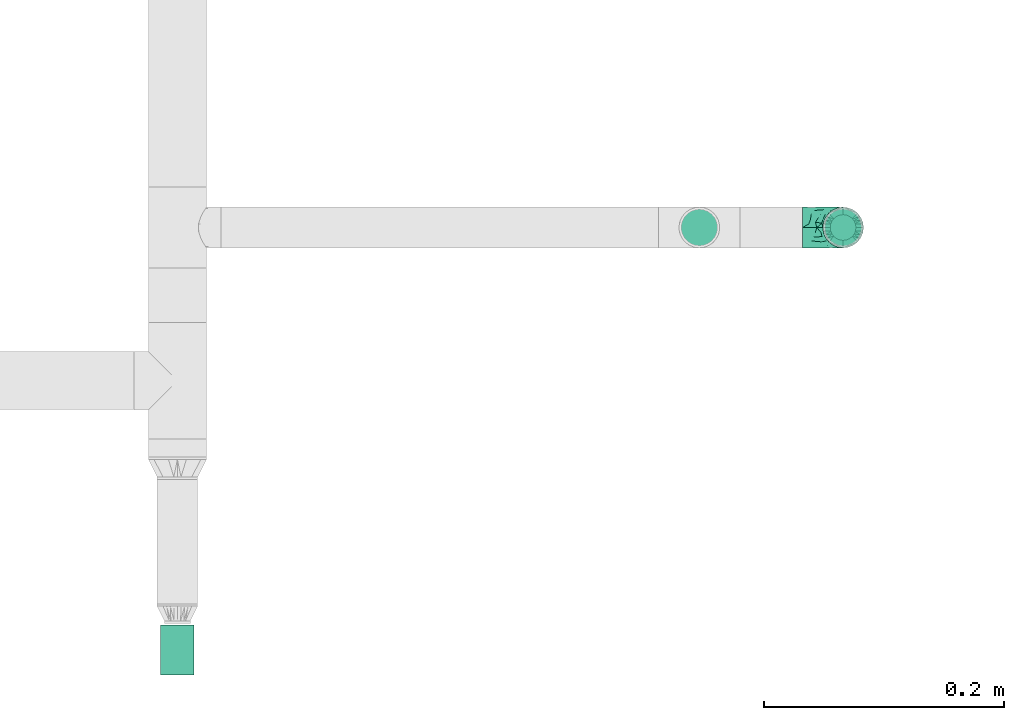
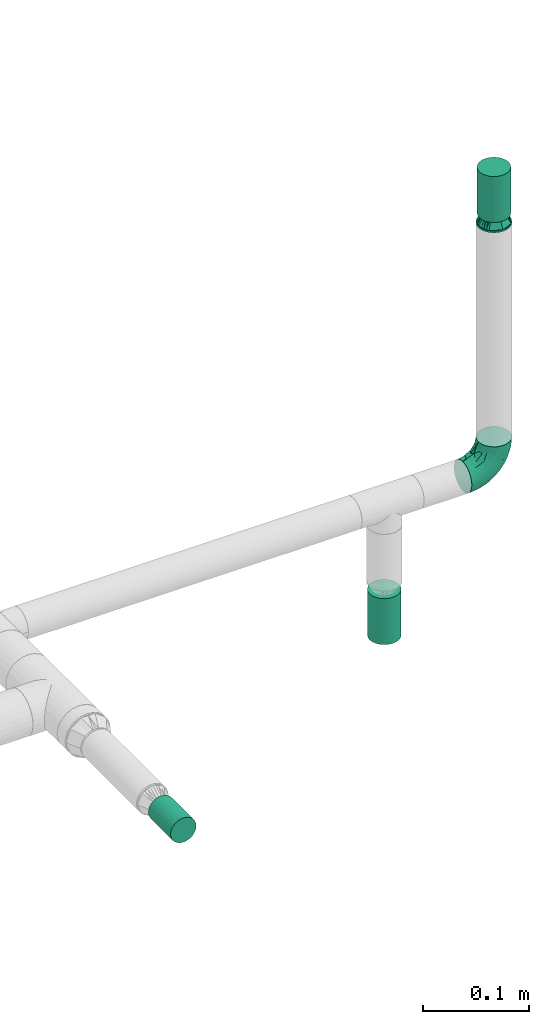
# One storey, part 38 of 51: 3 flow terminals, 2 flow fittings.
"""IFC2X3 building model written with IfcOpenShell, lengths in millimetres."""

from ifc_helpers import new_model, entity, si_unit, converted_unit, derived_unit, direction, frame, origin_with_axes, place, context, subcontext, project, spatial, open_shell, surface_model, source, transform, mapped, type_object, element, save


model = new_model("IFC2X3")

# Units and contexts
model_context = context("Model", 3, precision=0.01, world=frame((0.0, 4.29681676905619e-09, 0.0)), true_north=direction((4.01073788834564e-13, 1.0)))
plan_context = context("Plan", 3, precision=0.01, world=frame((0.0, 4.29681676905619e-09, 0.0)), true_north=direction((4.01073788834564e-13, 1.0)))
body_context = subcontext(model_context, "Body", "Model", "MODEL_VIEW")
ifc_project = project(units=[converted_unit("PLANEANGLEUNIT", "DEGREE", entity("IfcPositiveLengthMeasure", 0.0174532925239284), si_unit("PLANEANGLEUNIT", "RADIAN"), dimensions=[0, 0, 0, 0, 0, 0, 0]), si_unit("AREAUNIT", "SQUARE_METRE"), si_unit("LENGTHUNIT", "METRE", prefix="MILLI"), si_unit("MASSUNIT", "GRAM", prefix="KILO"), si_unit("POWERUNIT", "WATT"), si_unit("PRESSUREUNIT", "PASCAL"), si_unit("FORCEUNIT", "NEWTON", prefix="KILO"), si_unit("ELECTRICVOLTAGEUNIT", "VOLT"), si_unit("ELECTRICCURRENTUNIT", "AMPERE"), si_unit("THERMODYNAMICTEMPERATUREUNIT", "DEGREE_CELSIUS"), si_unit("TIMEUNIT", "SECOND"), si_unit("VOLUMEUNIT", "CUBIC_METRE"), derived_unit("LINEARVELOCITYUNIT", [(si_unit("LENGTHUNIT", "METRE"), 1), (si_unit("TIMEUNIT", "SECOND"), -1)]), derived_unit("VOLUMETRICFLOWRATEUNIT", [(si_unit("VOLUMEUNIT", "CUBIC_METRE"), 1), (si_unit("TIMEUNIT", "SECOND"), -1)]), derived_unit("THERMALTRANSMITTANCEUNIT", [(si_unit("POWERUNIT", "WATT"), 1), (si_unit("THERMODYNAMICTEMPERATUREUNIT", "KELVIN"), -1), (si_unit("AREAUNIT", "SQUARE_METRE"), -1)]), derived_unit("SOUNDPRESSUREUNIT", [(si_unit("PRESSUREUNIT", "PASCAL"), 1)])], contexts=[model_context, plan_context])

# Site, building, storey
site_placement = place(None, frame((0.0, -4.29681676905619e-09, 0.0), z_axis=(0.0, 0.0, 1.0), x_axis=(1.0, 0.0, 0.0)))
site = spatial("IfcSite", under=ifc_project, at=site_placement, Name="ENGM", CompositionType="ELEMENT")
building_placement = place(site_placement, frame((0.0, 4.29681676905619e-09, 0.0), z_axis=(0.0, 0.0, 1.0), x_axis=(1.0, 0.0, 0.0)))
building = spatial("IfcBuilding", under=site, at=building_placement, Name="TH", CompositionType="ELEMENT")
storey_placement = place(building_placement, frame((0.0, 0.0, 210200.0), z_axis=(0.0, 0.0, 1.0), x_axis=(1.0, 0.0, 0.0)))
storey = spatial("IfcBuildingStorey", under=building, at=storey_placement, Name="Nivå F - 0,7 m", CompositionType="ELEMENT", Elevation=210200.0)

# Flow fittings
pipe_fitting_type_1 = type_object("IfcPipeFittingType", Name="magi_pipe_fe_elbow_short_001", PredefinedType="BEND")
shared_shape_1 = source(origin_with_axes(), body_context, "Body", "SurfaceModel", [
    surface_model("IfcShellBasedSurfaceModel", [(-33.8, 8.45, -14.63583), (-33.8, 4.37404, -16.32415), (-33.8, 11.9501, -11.9501), (-33.8, -11.9501, -11.9501), (-33.8, -14.63583, -8.45), (-33.8, -8.45, -14.63583), (-33.8, 0.0, -16.9), (-33.8, -4.37404, -16.32415), (-33.8, -4.37404, 16.32415), (-33.8, 0.0, 16.9), (-33.8, -8.45, 14.63583), (-33.8, 16.32415, -4.37404), (-33.8, 14.63583, -8.45), (-33.8, -16.32415, -4.37404), (-33.8, -16.9, 0.0), (-33.8, -16.32415, 4.37404), (-33.8, 11.9501, 11.9501), (-33.8, 14.63583, 8.45), (-33.8, 16.32415, 4.37404), (-33.8, 4.37404, 16.32415), (-33.8, 8.45, 14.63583), (-33.8, -14.63583, 8.45), (-33.8, -11.9501, 11.9501), (-33.8, 16.9, 0.0), (-11.9501, 33.8, -11.9501), (0.0, 33.8, -16.9), (-4.37404, 33.8, -16.32415), (-8.45, 33.8, -14.63583), (-14.63583, 33.8, -8.45), (-16.32415, 33.8, -4.37404), (14.63583, 33.8, -8.45), (8.45, 33.8, 14.63583), (16.32415, 33.8, -4.37404), (8.45, 33.8, -14.63583), (11.9501, 33.8, -11.9501), (4.37404, 33.8, -16.32415), (16.32415, 33.8, 4.37404), (16.9, 33.8, 0.0), (-11.9501, 33.8, 11.9501), (-16.32415, 33.8, 4.37404), (-14.63583, 33.8, 8.45), (-8.45, 33.8, 14.63583), (-4.37404, 33.8, 16.32415), (11.9501, 33.8, 11.9501), (14.63583, 33.8, 8.45), (0.0, 33.8, 16.9), (4.37404, 33.8, 16.32415), (-16.9, 33.8, 0.0), (-24.79389, -13.12945, 9.48721), (-22.19287, -9.75018, 12.59315), (-24.09897, -14.97035, 0.0), (-14.93934, -10.76256, 8.5297), (-22.46095, -14.75051, 5.27077), (14.75051, 22.46094, 5.27077), (11.9251, 13.23888, 4.33236), (13.04069, 14.39795, 0.0), (7.71387, 13.68847, 11.55891), (9.75018, 22.19287, 12.59315), (4.10169, 13.0571, 14.04018), (-24.84007, -6.39063, 15.2048), (-25.81779, -2.23879, 16.61097), (-23.66549, 2.59054, 16.87119), (-26.50418, 14.06512, 11.08152), (-24.21253, 17.66365, 7.72657), (-29.58514, 15.86957, 7.00283), (-6.17382, -7.5455, 0.0), (-13.23888, -11.9251, 4.33236), (-14.39795, -13.04069, 0.0), (-17.81434, 18.87373, 11.97104), (-6.30846, 29.15138, 15.82987), (-2.31622, 25.28002, 16.85849), (-29.23923, 10.23435, 13.77053), (-1.45439, -2.85688, 7.61475), (-0.28326, 0.34872, 10.09509), (-5.74484, -4.04709, 10.4122), (-4.41137, 11.31918, 16.59407), (-8.39727, 3.10034, 15.7812), (-1.72649, 9.1306, 15.53089), (-17.39909, 24.75344, 7.64977), (-26.19233, 20.0512, 0.0), (-28.14518, 17.29657, 4.25857), (-26.05147, 6.6281, 15.96447), (-5.87354, 16.61944, 16.86968), (-12.51807, 12.51807, 16.48937), (-10.06312, 7.38516, 16.81295), (-3.01882, 3.01882, 13.81718), (-13.0571, -4.10169, 14.04018), (-16.82553, -0.15166, 16.38038), (10.76256, 14.93934, 8.5297), (13.12945, 24.79389, 9.48721), (6.39063, 24.84007, 15.2048), (2.23879, 25.81779, 16.61097), (-13.68847, -7.71387, 11.55891), (14.97035, 24.09897, 0.0), (-7.30894, 22.89991, 16.09489), (-10.67958, 26.17414, 14.008), (-12.78295, 18.26924, 15.06066), (-13.88562, 22.45231, 12.93244), (-18.04944, 15.16501, 14.04434), (-23.11658, 20.08178, 4.02986), (-21.84989, 21.84989, 0.0), (-18.55817, 25.48277, 3.93065), (-13.95142, 26.94732, 11.03289), (-18.57098, 7.23906, 16.59756), (-16.58335, 4.14122, 16.89279), (-17.96666, 11.46709, 15.63151), (-9.84453, 17.54304, 16.18938), (0.15166, 16.82553, 16.38038), (-23.27207, 11.47201, 14.23154), (3.84842, 5.86994, 10.70473), (-8.0212, -7.54413, 7.93275), (1.00345, -2.19508, 4.57414), (5.13203, 3.01004, 5.90201), (5.24161, 1.7543, 2.53265), (8.70457, 7.04947, 3.99182), (-20.0512, 26.19233, 0.0), (8.4852, 8.76699, 7.09296), (-4.55488, -6.72064, 4.90681), (2.05031, -2.05031, 0.0), (7.5455, 6.17382, 0.0), (-26.75399, 2.1369, -16.845), (-14.61995, 24.73803, -11.27736), (-28.45274, -13.45335, -9.81895), (-26.00469, 6.63555, -15.96645), (-23.06726, 20.04573, -4.26202), (-13.80647, -4.26506, -14.17873), (-14.67501, -0.21081, -16.07388), (-6.7902, -0.2828, -13.8478), (-24.53586, 11.08096, -14.13417), (-26.72048, 14.00837, -11.05776), (10.0967, 24.44989, -12.75976), (5.83237, 21.40218, -15.03047), (6.66249, 28.54238, -15.38093), (-20.38182, 15.48705, -12.74596), (12.53268, 21.23441, -9.15363), (12.54494, 15.67504, -5.54878), (9.7522, 12.89279, -8.66343), (-15.65186, 19.64213, -13.01327), (-12.03528, 20.66498, -14.67665), (-15.61907, 15.61906, -14.83879), (-25.56551, -15.26206, 0.0), (-24.65452, -15.12934, -5.50955), (13.45335, 28.45274, -9.81895), (15.12934, 24.65452, -5.50955), (-7.35442, -8.31014, -5.65563), (-15.67504, -12.54494, -5.54878), (-24.44989, -10.0967, -12.75976), (0.16522, 0.41303, -9.71728), (-5.70658, -5.33066, -8.89288), (-5.13869, -2.37198, -11.53565), (-21.23441, -12.53268, -9.15363), (0.71146, 7.93863, -14.09382), (0.21081, 14.67501, -16.07388), (3.49291, 14.42772, -14.76381), (-24.89911, -2.13088, -16.591), (-28.54238, -6.66249, -15.38093), (-18.44386, -7.71663, -13.26957), (2.13088, 24.89911, -16.591), (-28.64342, 17.44413, -2.89318), (1.70017, -1.28722, -5.09504), (-16.57067, 26.81947, -7.36596), (-17.69055, 27.4263, -3.76405), (-12.89279, -9.7522, -8.66343), (-5.96611, 5.96611, -15.95814), (-20.53709, 20.09345, -8.28985), (-2.1369, 26.75399, -16.845), (-6.89872, 24.58781, -16.02578), (-10.60739, 26.53157, -13.98044), (-21.40218, -5.83237, -15.03047), (2.93192, 5.89627, -11.55917), (6.89393, 12.61842, -11.82233), (5.58056, 5.95325, -8.79455), (-3.99512, 18.61798, -16.89635), (8.31014, 7.35442, -5.65563), (-9.1383, 9.86148, -16.89041), (-9.99983, 16.02119, -16.39699), (-16.68576, 9.78031, -16.34199), (-27.01915, 16.61158, -7.12979), (15.26206, 25.56551, 0.0), (-18.61798, 3.99512, -16.89635), (-19.37495, 27.82495, 0.0), (-12.61842, -6.89393, -11.82233), (-18.84705, 19.14018, -10.96545)], [open_shell([[[0, 1, 2]], [[3, 4, 5]], [[6, 7, 5]], [[8, 9, 10]], [[1, 6, 2]], [[11, 12, 2]], [[4, 2, 6]], [[2, 13, 10]], [[5, 4, 6]], [[2, 4, 13]], [[14, 15, 13]], [[11, 2, 16]], [[11, 17, 18]], [[11, 16, 17]], [[19, 20, 16]], [[16, 2, 10]], [[19, 16, 10]], [[21, 22, 15]], [[22, 13, 15]], [[22, 10, 13]], [[10, 9, 19]], [[11, 18, 23]], [[24, 25, 26]], [[24, 26, 27]], [[24, 28, 29]], [[25, 24, 30]], [[31, 32, 24]], [[33, 30, 34]], [[33, 35, 25]], [[25, 30, 33]], [[32, 30, 24]], [[32, 36, 37]], [[38, 24, 29]], [[39, 40, 29]], [[40, 38, 29]], [[38, 41, 42]], [[38, 31, 24]], [[31, 38, 42]], [[36, 43, 44]], [[36, 32, 43]], [[31, 45, 46]], [[32, 31, 43]], [[42, 45, 31]], [[39, 29, 47]], [[22, 48, 49]], [[15, 14, 50]], [[51, 48, 52]], [[53, 54, 55]], [[48, 22, 21]], [[15, 52, 21]], [[56, 57, 58]], [[49, 10, 22]], [[49, 59, 10]], [[9, 60, 61]], [[62, 63, 64]], [[65, 66, 67]], [[57, 43, 31]], [[62, 68, 63]], [[42, 69, 70]], [[20, 71, 16]], [[8, 60, 9]], [[72, 73, 74]], [[75, 76, 77]], [[16, 62, 17]], [[40, 39, 78]], [[79, 23, 80]], [[64, 18, 17]], [[9, 61, 19]], [[19, 81, 20]], [[82, 83, 84]], [[74, 85, 86]], [[59, 86, 87]], [[88, 89, 57]], [[90, 31, 46]], [[44, 53, 36]], [[46, 45, 91]], [[54, 53, 88]], [[44, 89, 53]], [[92, 86, 49]], [[89, 44, 43]], [[10, 59, 8]], [[53, 55, 93]], [[93, 36, 53]], [[66, 52, 67]], [[94, 82, 70]], [[95, 96, 94]], [[97, 98, 96]], [[79, 99, 100]], [[41, 38, 95]], [[101, 100, 99]], [[68, 78, 63]], [[42, 41, 69]], [[23, 18, 80]], [[95, 94, 69]], [[78, 101, 99]], [[38, 102, 95]], [[70, 45, 42]], [[97, 95, 102]], [[15, 50, 52]], [[90, 57, 31]], [[57, 90, 58]], [[81, 19, 61]], [[103, 104, 84]], [[105, 81, 103]], [[38, 40, 102]], [[106, 96, 83]], [[94, 106, 82]], [[91, 70, 107]], [[71, 62, 16]], [[62, 108, 98]], [[86, 59, 49]], [[67, 52, 50]], [[60, 59, 87]], [[92, 49, 51]], [[86, 85, 76]], [[91, 90, 46]], [[37, 36, 93]], [[107, 77, 58]], [[107, 58, 90]], [[58, 85, 109]], [[110, 74, 92]], [[72, 74, 110]], [[66, 51, 52]], [[72, 111, 112]], [[113, 114, 112]], [[56, 88, 57]], [[52, 48, 21]], [[49, 48, 51]], [[57, 89, 43]], [[53, 89, 88]], [[103, 81, 61]], [[71, 81, 108]], [[18, 64, 80]], [[63, 78, 99]], [[47, 115, 101]], [[101, 115, 100]], [[40, 78, 102]], [[68, 102, 78]], [[97, 96, 95]], [[105, 98, 108]], [[103, 84, 83]], [[107, 70, 82]], [[76, 84, 87]], [[82, 84, 75]], [[70, 91, 45]], [[90, 91, 107]], [[59, 60, 8]], [[61, 60, 87]], [[73, 85, 74]], [[109, 112, 116]], [[103, 61, 104]], [[105, 103, 83]], [[96, 105, 83]], [[81, 105, 108]], [[96, 98, 105]], [[62, 98, 68]], [[61, 87, 104]], [[87, 84, 104]], [[86, 76, 87]], [[77, 76, 85]], [[58, 77, 85]], [[75, 77, 107]], [[82, 75, 107]], [[76, 75, 84]], [[81, 71, 20]], [[62, 71, 108]], [[95, 69, 41]], [[70, 69, 94]], [[62, 64, 17]], [[80, 63, 99]], [[63, 80, 64]], [[80, 99, 79]], [[66, 65, 117]], [[110, 66, 117]], [[112, 114, 116]], [[118, 117, 65]], [[110, 92, 51]], [[112, 111, 113]], [[119, 55, 54]], [[74, 86, 92]], [[58, 109, 56]], [[116, 56, 109]], [[66, 110, 51]], [[72, 110, 117]], [[111, 72, 117]], [[73, 112, 109]], [[117, 118, 111]], [[113, 111, 118]], [[118, 119, 113]], [[114, 119, 54]], [[119, 114, 113]], [[116, 54, 88]], [[54, 116, 114]], [[116, 88, 56]], [[112, 73, 72]], [[85, 73, 109]], [[78, 39, 101]], [[47, 101, 39]], [[102, 68, 97]], [[97, 68, 98]], [[82, 106, 83]], [[94, 96, 106]], [[1, 120, 6]], [[28, 24, 121]], [[3, 122, 4]], [[0, 123, 1]], [[100, 124, 79]], [[125, 126, 127]], [[128, 2, 129]], [[130, 131, 132]], [[128, 129, 133]], [[134, 135, 136]], [[137, 138, 139]], [[128, 0, 2]], [[67, 140, 141]], [[134, 142, 143]], [[141, 13, 4]], [[144, 65, 145]], [[146, 3, 5]], [[147, 148, 149]], [[145, 141, 150]], [[151, 152, 153]], [[154, 7, 6]], [[5, 155, 146]], [[150, 146, 156]], [[155, 5, 7]], [[143, 135, 134]], [[35, 157, 25]], [[23, 79, 158]], [[148, 159, 144]], [[160, 161, 29]], [[145, 162, 144]], [[163, 152, 151]], [[29, 28, 160]], [[121, 164, 160]], [[33, 34, 130]], [[25, 165, 26]], [[26, 165, 166]], [[142, 34, 30]], [[24, 27, 167]], [[124, 161, 164]], [[157, 35, 132]], [[155, 154, 168]], [[123, 0, 128]], [[169, 170, 171]], [[172, 157, 152]], [[26, 166, 27]], [[132, 35, 33]], [[142, 130, 34]], [[168, 154, 126]], [[136, 135, 173]], [[133, 137, 139]], [[2, 12, 129]], [[170, 131, 130]], [[30, 32, 143]], [[172, 174, 175]], [[176, 123, 128]], [[158, 177, 11]], [[135, 55, 119]], [[167, 27, 166]], [[175, 166, 172]], [[137, 167, 138]], [[122, 141, 4]], [[140, 14, 13]], [[32, 37, 178]], [[170, 130, 134]], [[152, 157, 131]], [[165, 157, 172]], [[153, 170, 151]], [[152, 163, 174]], [[168, 125, 156]], [[122, 146, 150]], [[120, 154, 6]], [[179, 174, 126]], [[179, 126, 154]], [[126, 163, 127]], [[162, 145, 150]], [[140, 13, 141]], [[32, 178, 143]], [[55, 143, 178]], [[177, 129, 12]], [[128, 133, 139]], [[176, 128, 139]], [[120, 123, 179]], [[121, 160, 28]], [[161, 100, 180]], [[166, 175, 138]], [[121, 24, 167]], [[161, 47, 29]], [[79, 124, 158]], [[124, 164, 177]], [[161, 124, 100]], [[136, 171, 170]], [[127, 163, 151]], [[147, 171, 159]], [[148, 144, 162]], [[127, 151, 169]], [[127, 181, 125]], [[129, 177, 164]], [[12, 11, 177]], [[159, 65, 144]], [[67, 141, 145]], [[143, 55, 135]], [[135, 119, 173]], [[123, 120, 1]], [[154, 120, 179]], [[157, 165, 25]], [[166, 165, 172]], [[172, 152, 174]], [[176, 139, 175]], [[126, 174, 163]], [[176, 174, 179]], [[174, 176, 175]], [[123, 176, 179]], [[150, 181, 162]], [[127, 149, 181]], [[181, 148, 162]], [[159, 148, 147]], [[171, 136, 173]], [[170, 134, 136]], [[159, 171, 173]], [[171, 147, 169]], [[169, 147, 149]], [[151, 170, 169]], [[164, 182, 129]], [[182, 121, 137]], [[181, 149, 148]], [[169, 149, 127]], [[182, 137, 133]], [[167, 137, 121]], [[166, 138, 167]], [[175, 139, 138]], [[129, 182, 133]], [[121, 182, 164]], [[161, 160, 164]], [[47, 161, 180]], [[177, 158, 124]], [[23, 158, 11]], [[130, 132, 33]], [[157, 132, 131]], [[143, 142, 30]], [[130, 142, 134]], [[154, 155, 7]], [[146, 155, 168]], [[146, 122, 3]], [[141, 122, 150]], [[152, 131, 153]], [[159, 119, 118]], [[67, 145, 65]], [[170, 153, 131]], [[119, 159, 173]], [[159, 118, 65]], [[156, 125, 181]], [[126, 125, 168]], [[150, 156, 181]], [[168, 156, 146]]])]),
])
flow_fitting_1_placement = place(storey_placement, frame((909503.69999, 481150.50372, 2700.0), z_axis=(0.0, -1.0, 0.0), x_axis=(1.0, 0.0, 0.0)))
element("IfcFlowFitting", 1, at=flow_fitting_1_placement, inside=storey, type_object=pipe_fitting_type_1, Name="magi_pipe_fe_elbow_short_001", context=body_context, shape_type="MappedRepresentation", body=[
    mapped(shared_shape_1, transform((0.0, 0.0, 0.0), scale=1.0)),
])
pipe_fitting_type_2 = type_object("IfcPipeFittingType", Name="magi_pipe_fe_reducer_centric_short_NOR", PredefinedType="TRANSITION")
shared_shape_2 = source(origin_with_axes(), body_context, "Body", "SurfaceModel", [
    surface_model("IfcShellBasedSurfaceModel", [(14.4, 5.35, -9.26647), (14.4, 0.0, -10.7), (14.4, 2.76936, -10.33541), (14.4, 10.33541, -2.76936), (14.4, 7.56604, -7.56604), (14.4, 9.26647, -5.35), (14.4, -5.35, -9.26647), (14.4, -2.76936, -10.33541), (14.4, -7.56604, -7.56604), (14.4, -10.33541, -2.76936), (14.4, -9.26647, -5.35), (14.4, 10.33541, 2.76936), (14.4, 9.26647, 5.35), (14.4, 7.56604, 7.56604), (14.4, 2.76936, 10.33541), (14.4, 5.35, 9.26647), (14.4, -7.56604, 7.56604), (14.4, -2.76936, 10.33541), (14.4, -5.35, 9.26647), (12.4, 7.56604, 7.56604), (12.4, 9.26647, 5.35), (12.4, 10.33541, 2.76936), (12.4, -2.76936, 10.33541), (12.4, -7.56604, 7.56604), (12.4, -5.35, 9.26647), (12.4, -10.33541, 2.76936), (12.4, -9.26647, 5.35), (12.4, 0.0, 10.7), (12.4, -10.33541, -2.76936), (12.4, -10.7, 0.0), (12.4, -5.35, -9.26647), (12.4, 0.0, -10.7), (12.4, -2.76936, -10.33541), (12.4, 2.76936, -10.33541), (12.4, 10.33541, -2.76936), (12.4, 10.7, 0.0), (12.4, -9.26647, -5.35), (12.4, -7.56604, -7.56604), (14.4, -10.7, 0.0), (12.4, 5.35, -9.26647), (12.4, 7.56604, -7.56604), (12.4, 9.26647, -5.35), (14.4, 10.7, 0.0), (12.4, 5.35, 9.26647), (12.4, 2.76936, 10.33541), (14.4, 0.0, 10.7), (14.4, -9.26647, 5.35), (14.4, -10.33541, 2.76936), (-2.0, 11.9501, 11.9501), (-2.0, 0.0, 16.9), (-2.0, 4.37404, 16.32415), (-2.0, 8.45, 14.63583), (-2.0, 14.63583, 8.45), (-2.0, 16.32415, 4.37404), (-2.0, -16.32415, 4.37404), (-2.0, -8.45, 14.63583), (-2.0, -14.63583, 8.45), (-2.0, -11.9501, 11.9501), (-2.0, -4.37404, 16.32415), (-2.0, -16.32415, -4.37404), (-2.0, -16.9, 0.0), (-2.0, -8.45, -14.63583), (-2.0, 16.32415, -4.37404), (-2.0, 11.9501, -11.9501), (-2.0, 14.63583, -8.45), (-2.0, 8.45, -14.63583), (-2.0, 4.37404, -16.32415), (-2.0, 0.0, -16.9), (-2.0, -11.9501, -11.9501), (-2.0, -14.63583, -8.45), (-2.0, -4.37404, -16.32415), (-2.0, 16.9, 0.0), (0.0, 4.37404, -16.32415), (0.0, 8.45, -14.63583), (0.0, 11.9501, -11.9501), (0.0, 0.0, -16.9), (0.0, 16.32415, -4.37404), (0.0, 16.32415, 4.37404), (0.0, 14.63583, -8.45), (0.0, -8.45, -14.63583), (0.0, -4.37404, -16.32415), (0.0, -11.9501, -11.9501), (0.0, -16.32415, -4.37404), (0.0, -14.63583, -8.45), (0.0, -16.32415, 4.37404), (0.0, 16.9, 0.0), (0.0, 14.63583, 8.45), (0.0, 11.9501, 11.9501), (0.0, 4.37404, 16.32415), (0.0, 8.45, 14.63583), (0.0, 0.0, 16.9), (0.0, -14.63583, 8.45), (0.0, -16.9, 0.0), (0.0, -8.45, 14.63583), (0.0, -11.9501, 11.9501), (0.0, -4.37404, 16.32415), (12.4, 9.3625, -2.31662), (0.0, 14.42505, -5.97505), (0.0, 15.66253, -2.98753), (12.4, -6.6875, -6.94985), (0.0, -13.18758, -8.96258), (0.0, 2.98753, -15.66253), (12.4, 0.0, -9.26647), (12.4, 6.6875, -6.94985), (0.0, 8.96258, -13.18758), (12.4, -9.3625, -2.31662), (0.0, -15.66253, -2.98753), (0.0, -14.42505, -5.97505), (0.0, 5.97505, -14.42505), (0.0, -2.98753, -15.66253), (0.0, -8.96258, -13.18758), (0.0, 13.18758, -8.96258), (12.4, 8.025, -4.63324), (12.4, -2.675, -9.26647), (12.4, 2.675, -9.26647), (0.0, -5.97505, -14.42505), (12.4, -8.025, -4.63324), (12.4, -9.3625, 2.31662), (0.0, -14.42505, 5.97505), (0.0, -15.66253, 2.98753), (12.4, 6.6875, 6.94985), (0.0, 13.18758, 8.96258), (0.0, -2.98753, 15.66253), (12.4, 0.0, 9.26647), (12.4, -6.6875, 6.94985), (0.0, -8.96258, 13.18758), (12.4, 9.3625, 2.31662), (0.0, 15.66253, 2.98753), (0.0, 14.42505, 5.97505), (0.0, -5.97505, 14.42505), (0.0, 2.98753, 15.66253), (0.0, 8.96258, 13.18758), (0.0, -13.18758, 8.96258), (12.4, -8.025, 4.63324), (12.4, 2.675, 9.26647), (12.4, -2.675, 9.26647), (0.0, 5.97505, 14.42505), (12.4, 8.025, 4.63324)], [open_shell([[[0, 1, 2]], [[3, 0, 4]], [[3, 4, 5]], [[1, 6, 7]], [[1, 0, 6]], [[8, 9, 10]], [[9, 8, 6]], [[11, 12, 13]], [[14, 13, 15]], [[16, 17, 18]], [[19, 20, 21]], [[22, 23, 24]], [[23, 22, 25]], [[23, 25, 26]], [[22, 27, 25]], [[25, 28, 29]], [[30, 31, 32]], [[30, 28, 33]], [[33, 31, 30]], [[34, 21, 35]], [[28, 9, 29]], [[36, 10, 28]], [[6, 37, 30]], [[36, 37, 8]], [[7, 30, 32]], [[28, 10, 9]], [[9, 38, 29]], [[7, 6, 30]], [[8, 37, 6]], [[8, 10, 36]], [[1, 7, 32]], [[32, 31, 1]], [[33, 2, 31]], [[39, 0, 33]], [[5, 40, 41]], [[39, 40, 4]], [[3, 41, 34]], [[39, 4, 0]], [[0, 2, 33]], [[42, 3, 34]], [[5, 41, 3]], [[5, 4, 40]], [[35, 42, 34]], [[31, 2, 1]], [[21, 11, 35]], [[20, 12, 21]], [[15, 19, 43]], [[20, 19, 13]], [[14, 43, 44]], [[21, 12, 11]], [[11, 42, 35]], [[14, 15, 43]], [[13, 19, 15]], [[13, 12, 20]], [[45, 14, 44]], [[44, 27, 45]], [[22, 17, 27]], [[24, 18, 22]], [[46, 23, 26]], [[24, 23, 16]], [[47, 26, 25]], [[24, 16, 18]], [[18, 17, 22]], [[38, 47, 25]], [[46, 26, 47]], [[46, 16, 23]], [[29, 38, 25]], [[27, 17, 45]], [[48, 49, 50]], [[48, 50, 51]], [[48, 52, 53]], [[48, 53, 49]], [[49, 53, 54]], [[55, 56, 57]], [[55, 58, 49]], [[56, 55, 49]], [[49, 54, 56]], [[54, 59, 60]], [[54, 53, 61]], [[53, 62, 63]], [[63, 62, 64]], [[63, 65, 66]], [[61, 53, 63]], [[67, 63, 66]], [[59, 68, 69]], [[68, 59, 61]], [[61, 67, 70]], [[59, 54, 61]], [[63, 67, 61]], [[53, 71, 62]], [[72, 73, 74]], [[75, 72, 74]], [[74, 76, 77]], [[76, 74, 78]], [[74, 77, 79]], [[75, 79, 80]], [[75, 74, 79]], [[81, 82, 83]], [[82, 81, 79]], [[79, 84, 82]], [[77, 76, 85]], [[77, 86, 87]], [[77, 87, 88]], [[88, 84, 79]], [[88, 87, 89]], [[84, 88, 90]], [[90, 91, 84]], [[92, 82, 84]], [[91, 93, 94]], [[91, 90, 93]], [[93, 90, 95]], [[79, 77, 88]], [[59, 82, 60]], [[69, 83, 59]], [[79, 68, 61]], [[69, 68, 81]], [[80, 61, 70]], [[59, 83, 82]], [[82, 92, 60]], [[80, 79, 61]], [[81, 68, 79]], [[81, 83, 69]], [[75, 80, 70]], [[70, 67, 75]], [[66, 72, 67]], [[65, 73, 66]], [[78, 63, 64]], [[65, 63, 74]], [[76, 64, 62]], [[65, 74, 73]], [[73, 72, 66]], [[85, 76, 62]], [[78, 64, 76]], [[78, 74, 63]], [[71, 85, 62]], [[67, 72, 75]], [[53, 77, 71]], [[52, 86, 53]], [[89, 48, 51]], [[52, 48, 87]], [[88, 51, 50]], [[53, 86, 77]], [[77, 85, 71]], [[88, 89, 51]], [[87, 48, 89]], [[87, 86, 52]], [[90, 88, 50]], [[50, 49, 90]], [[58, 95, 49]], [[55, 93, 58]], [[91, 57, 56]], [[55, 57, 94]], [[84, 56, 54]], [[55, 94, 93]], [[93, 95, 58]], [[92, 84, 54]], [[91, 56, 84]], [[91, 94, 57]], [[60, 92, 54]], [[49, 95, 90]], [[43, 24, 35]], [[35, 24, 30]], [[30, 39, 35]], [[30, 24, 29]], [[87, 74, 92]], [[75, 92, 74]], [[81, 92, 75]], [[74, 87, 85]], [[96, 97, 98]], [[81, 99, 100]], [[101, 102, 75]], [[98, 85, 35]], [[74, 103, 104]], [[104, 103, 39]], [[105, 106, 107]], [[39, 108, 104]], [[102, 109, 75]], [[110, 99, 81]], [[35, 96, 98]], [[103, 111, 112]], [[109, 102, 113]], [[29, 92, 106]], [[102, 101, 114]], [[110, 115, 30]], [[96, 112, 97]], [[107, 116, 105]], [[29, 106, 105]], [[113, 115, 109]], [[30, 115, 113]], [[116, 107, 100]], [[108, 39, 114]], [[111, 103, 74]], [[111, 97, 112]], [[99, 110, 30]], [[116, 100, 99]], [[101, 108, 114]], [[117, 118, 119]], [[87, 120, 121]], [[122, 123, 90]], [[119, 92, 29]], [[94, 124, 125]], [[125, 124, 24]], [[126, 127, 128]], [[24, 129, 125]], [[123, 130, 90]], [[131, 120, 87]], [[29, 117, 119]], [[124, 132, 133]], [[130, 123, 134]], [[35, 85, 127]], [[123, 122, 135]], [[131, 136, 43]], [[117, 133, 118]], [[128, 137, 126]], [[35, 127, 126]], [[134, 136, 130]], [[43, 136, 134]], [[137, 128, 121]], [[129, 24, 135]], [[132, 124, 94]], [[132, 118, 133]], [[120, 131, 43]], [[137, 121, 120]], [[122, 129, 135]], [[6, 0, 3]], [[46, 6, 3]], [[6, 46, 9]], [[11, 3, 42]], [[3, 13, 46]], [[14, 45, 13]], [[46, 13, 45]], [[9, 47, 38]], [[46, 47, 9]], [[17, 16, 46]], [[45, 17, 46]], [[3, 11, 13]], [[27, 44, 43]], [[27, 43, 19]], [[27, 19, 25]], [[34, 25, 19]], [[34, 19, 21]], [[28, 25, 34]], [[33, 34, 41]], [[40, 39, 33]], [[40, 33, 41]], [[28, 34, 33]], [[28, 37, 36]], [[37, 28, 30]], [[90, 87, 92]], [[92, 94, 90]]])]),
])
flow_fitting_2_placement = place(storey_placement, frame((909503.69999, 481150.50372, 2982.64799999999), z_axis=(1.0, 0.0, 0.0), x_axis=(0.0, 0.0, 1.0)))
element("IfcFlowFitting", 2, at=flow_fitting_2_placement, inside=storey, type_object=pipe_fitting_type_2, Name="magi_pipe_fe_reducer_centric_short_NOR", context=body_context, shape_type="MappedRepresentation", body=[
    mapped(shared_shape_2, transform((0.0, 0.0, 0.0), scale=1.0)),
])

# Flow terminals
fire_suppression_terminal_type_1 = type_object("IfcFireSuppressionTerminalType", Name="SP-15-K80-68DGR-STD-STÅENDE", PredefinedType="NOTDEFINED")
shared_shape_3 = source(origin_with_axes(), body_context, "Body", "SurfaceModel", [
    surface_model("IfcShellBasedSurfaceModel", [(4.1411, -15.45481, 53.0), (8.0, -13.85641, 53.0), (11.31371, -11.31371, 53.0), (-8.0, -13.85641, 53.0), (15.45481, -4.1411, 53.0), (16.0, 0.0, 53.0), (13.85641, -8.0, 53.0), (0.0, -16.0, 53.0), (-4.1411, -15.45481, 53.0), (-13.85641, -8.0, 53.0), (-11.31371, -11.31371, 53.0), (-15.45481, -4.1411, 53.0), (15.45481, 4.1411, 53.0), (13.85641, 8.0, 53.0), (11.31371, 11.31371, 53.0), (-4.1411, 15.45481, 53.0), (8.0, 13.85641, 53.0), (4.1411, 15.45481, 53.0), (0.0, 16.0, 53.0), (-13.85641, 8.0, 53.0), (-15.45481, 4.1411, 53.0), (-16.0, 0.0, 53.0), (-11.31371, 11.31371, 53.0), (-8.0, 13.85641, 53.0), (0.0, 16.0, 0.0), (4.1411, 15.45481, 0.0), (8.0, 13.85641, 0.0), (-4.1411, 15.45481, 0.0), (11.31371, 11.31371, 0.0), (13.85641, 8.0, 0.0), (15.45481, 4.1411, 0.0), (-15.45481, -4.1411, 0.0), (-11.31371, 11.31371, 0.0), (-8.0, 13.85641, 0.0), (-13.85641, 8.0, 0.0), (-15.45481, 4.1411, 0.0), (-16.0, 0.0, 0.0), (4.1411, -15.45481, 0.0), (16.0, 0.0, 0.0), (15.45481, -4.1411, 0.0), (13.85641, -8.0, 0.0), (11.31371, -11.31371, 0.0), (8.0, -13.85641, 0.0), (-8.0, -13.85641, 0.0), (-13.85641, -8.0, 0.0), (-11.31371, -11.31371, 0.0), (0.0, -16.0, 0.0), (-4.1411, -15.45481, 0.0)], [open_shell([[[0, 1, 2]], [[3, 0, 2]], [[4, 5, 2]], [[4, 2, 6]], [[3, 2, 5]], [[7, 3, 8]], [[7, 0, 3]], [[3, 9, 10]], [[9, 3, 11]], [[5, 11, 3]], [[5, 12, 11]], [[12, 13, 14]], [[15, 12, 14]], [[16, 17, 18]], [[14, 16, 15]], [[18, 15, 16]], [[11, 19, 20]], [[21, 11, 20]], [[22, 15, 23]], [[15, 22, 19]], [[19, 11, 15]], [[11, 12, 15]], [[24, 25, 26]], [[27, 24, 26]], [[28, 29, 30]], [[27, 26, 28]], [[27, 28, 31]], [[27, 32, 33]], [[32, 27, 34]], [[34, 31, 35]], [[31, 34, 27]], [[35, 31, 36]], [[28, 30, 31]], [[37, 38, 39]], [[37, 39, 40]], [[41, 42, 37]], [[41, 37, 40]], [[38, 37, 43]], [[44, 43, 45]], [[43, 44, 31]], [[43, 46, 47]], [[43, 31, 38]], [[37, 46, 43]], [[38, 31, 30]], [[11, 31, 44]], [[45, 9, 44]], [[3, 43, 47]], [[45, 43, 10]], [[8, 47, 46]], [[31, 21, 36]], [[31, 11, 21]], [[44, 9, 11]], [[45, 10, 9]], [[3, 10, 43]], [[47, 8, 3]], [[46, 7, 8]], [[0, 37, 42]], [[41, 1, 42]], [[6, 40, 39]], [[41, 40, 2]], [[4, 39, 38]], [[37, 0, 7]], [[42, 1, 0]], [[41, 2, 1]], [[40, 6, 2]], [[4, 6, 39]], [[38, 5, 4]], [[37, 7, 46]], [[12, 38, 30]], [[13, 30, 29]], [[16, 26, 25]], [[17, 25, 24]], [[30, 13, 12]], [[12, 5, 38]], [[28, 14, 13]], [[28, 26, 14]], [[14, 26, 16]], [[25, 17, 16]], [[28, 13, 29]], [[24, 18, 17]], [[15, 27, 33]], [[32, 23, 33]], [[19, 34, 35]], [[32, 34, 22]], [[20, 35, 36]], [[27, 15, 18]], [[33, 23, 15]], [[32, 22, 23]], [[34, 19, 22]], [[20, 19, 35]], [[36, 21, 20]], [[27, 18, 24]]])]),
])
flow_terminal_1_placement = place(storey_placement, frame((909503.69999, 481150.50372, 2992.0), z_axis=(0.0, 0.0, 1.0), x_axis=(0.0, -1.0, 0.0)))
element("IfcFlowTerminal", 3, at=flow_terminal_1_placement, inside=storey, type_object=fire_suppression_terminal_type_1, Name="SP-15-K80-68DGR-STD-STÅENDE", context=body_context, shape_type="MappedRepresentation", body=[
    mapped(shared_shape_3, transform((0.0, 0.0, 0.0), scale=1.0)),
])
fire_suppression_terminal_type_2 = type_object("IfcFireSuppressionTerminalType", Name="SP-15-K80-68DGR-STD-HIMLING", PredefinedType="NOTDEFINED")
flow_terminal_2_placement = place(storey_placement, frame((909384.08153, 481150.50372, 2600.0), z_axis=(0.0, 0.0, -1.0), x_axis=(0.0, 1.0, 0.0)))
element("IfcFlowTerminal", 4, at=flow_terminal_2_placement, inside=storey, type_object=fire_suppression_terminal_type_2, Name="SP-15-K80-68DGR-STD-HIMLING", context=body_context, shape_type="MappedRepresentation", body=[
    mapped(shared_shape_3, transform((0.0, 0.0, 0.0), scale=1.0)),
])
fire_suppression_terminal_type_3 = type_object("IfcFireSuppressionTerminalType", Name="XW-15-K80-68DGR-QR", PredefinedType="NOTDEFINED")
shared_shape_4 = source(origin_with_axes(), body_context, "Body", "SurfaceModel", [
    surface_model("IfcShellBasedSurfaceModel", [(42.0, 3.62347, -13.52296), (42.0, 7.0, -12.12436), (42.0, 9.89949, -9.89949), (42.0, -13.52296, -3.62347), (42.0, 13.52296, -3.62347), (42.0, 12.12436, -7.0), (42.0, 13.52296, 3.62347), (42.0, 0.0, -14.0), (42.0, -7.0, -12.12436), (42.0, -3.62347, -13.52296), (42.0, -9.89949, -9.89949), (42.0, -12.12436, -7.0), (42.0, 14.0, 0.0), (42.0, 12.12436, 7.0), (42.0, 9.89949, 9.89949), (42.0, 7.0, 12.12436), (42.0, 3.62347, 13.52296), (42.0, 0.0, 14.0), (42.0, -3.62347, 13.52296), (42.0, -13.52296, 3.62347), (42.0, -14.0, 0.0), (42.0, -12.12436, 7.0), (42.0, -9.89949, 9.89949), (42.0, -7.0, 12.12436), (0.0, 0.0, 14.0), (0.0, 3.62347, 13.52296), (0.0, 7.0, 12.12436), (0.0, -3.62347, 13.52296), (0.0, 9.89949, 9.89949), (0.0, 12.12436, 7.0), (0.0, 13.52296, 3.62347), (0.0, -9.89949, 9.89949), (0.0, -7.0, 12.12436), (0.0, -12.12436, 7.0), (0.0, -13.52296, -3.62347), (0.0, -13.52296, 3.62347), (0.0, -14.0, 0.0), (0.0, 13.52296, -3.62347), (0.0, 9.89949, -9.89949), (0.0, 12.12436, -7.0), (0.0, 7.0, -12.12436), (0.0, 3.62347, -13.52296), (0.0, -9.89949, -9.89949), (0.0, -12.12436, -7.0), (0.0, -7.0, -12.12436), (0.0, 0.0, -14.0), (0.0, -3.62347, -13.52296), (0.0, 14.0, 0.0)], [open_shell([[[0, 1, 2]], [[3, 0, 2]], [[3, 2, 4]], [[4, 2, 5]], [[6, 3, 4]], [[7, 8, 9]], [[7, 0, 8]], [[10, 3, 11]], [[3, 10, 8]], [[0, 3, 8]], [[4, 12, 6]], [[6, 13, 14]], [[6, 14, 15]], [[15, 16, 17]], [[15, 17, 6]], [[6, 17, 18]], [[3, 19, 20]], [[21, 19, 3]], [[22, 18, 23]], [[18, 22, 21]], [[18, 21, 3]], [[3, 6, 18]], [[24, 25, 26]], [[27, 24, 26]], [[28, 29, 30]], [[28, 30, 26]], [[27, 26, 30]], [[27, 31, 32]], [[31, 27, 33]], [[33, 34, 35]], [[36, 35, 34]], [[27, 34, 33]], [[27, 30, 37]], [[34, 27, 37]], [[38, 37, 39]], [[38, 40, 41]], [[37, 38, 34]], [[41, 34, 38]], [[34, 42, 43]], [[42, 34, 44]], [[44, 45, 46]], [[44, 34, 41]], [[41, 45, 44]], [[37, 30, 47]], [[3, 34, 43]], [[42, 11, 43]], [[8, 44, 46]], [[42, 44, 10]], [[9, 46, 45]], [[34, 20, 36]], [[34, 3, 20]], [[43, 11, 3]], [[42, 10, 11]], [[8, 10, 44]], [[46, 9, 8]], [[45, 7, 9]], [[0, 41, 40]], [[38, 1, 40]], [[5, 39, 37]], [[38, 39, 2]], [[4, 37, 47]], [[41, 0, 7]], [[40, 1, 0]], [[38, 2, 1]], [[39, 5, 2]], [[4, 5, 37]], [[47, 12, 4]], [[41, 7, 45]], [[6, 47, 30]], [[29, 13, 30]], [[15, 26, 25]], [[16, 25, 24]], [[30, 13, 6]], [[6, 12, 47]], [[14, 28, 15]], [[14, 13, 29]], [[15, 28, 26]], [[25, 16, 15]], [[14, 29, 28]], [[24, 17, 16]], [[18, 27, 32]], [[31, 23, 32]], [[21, 33, 35]], [[31, 33, 22]], [[19, 35, 36]], [[27, 18, 17]], [[32, 23, 18]], [[31, 22, 23]], [[33, 21, 22]], [[19, 21, 35]], [[36, 20, 19]], [[27, 17, 24]]])]),
])
flow_terminal_3_placement = place(storey_placement, frame((908949.82472, 480820.00437, 2700.0), z_axis=(0.0, 0.0, 1.0), x_axis=(0.0, -1.0, 0.0)))
element("IfcFlowTerminal", 5, at=flow_terminal_3_placement, inside=storey, type_object=fire_suppression_terminal_type_3, Name="XW-15-K80-68DGR-QR", context=body_context, shape_type="MappedRepresentation", body=[
    mapped(shared_shape_4, transform((0.0, 0.0, 0.0), scale=1.0)),
])

save(model, "model.ifc")
